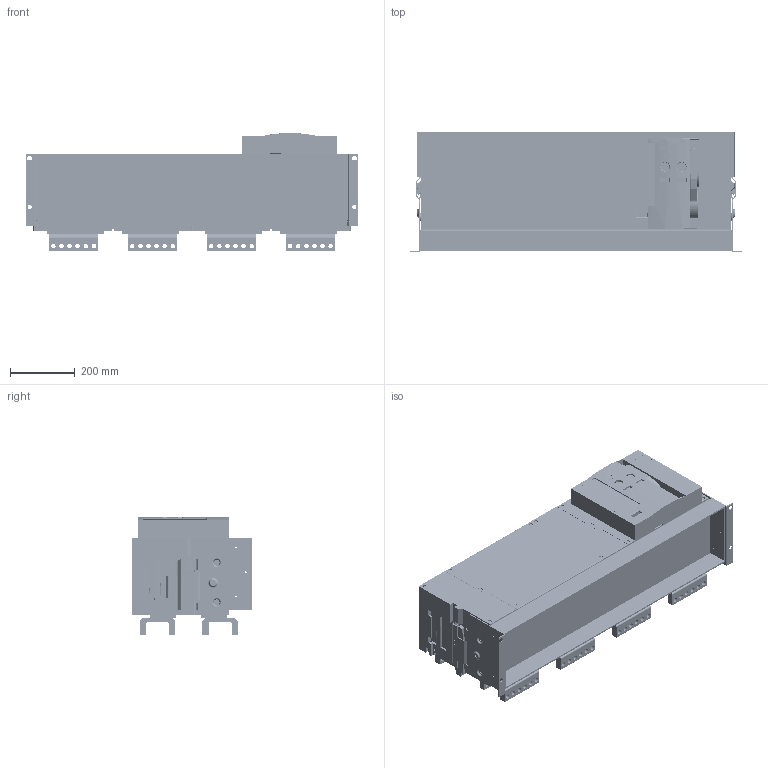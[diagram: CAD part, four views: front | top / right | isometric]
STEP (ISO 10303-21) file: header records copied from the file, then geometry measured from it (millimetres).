
FILE_DESCRIPTION (( 'STEP AP214' ), '1' );
FILE_NAME ('OptiMat A-S6-B-6300-4P-F-H.STEP', '2025-02-10T10:12:31', ( '' ), ( '' ), 'SwSTEP 2.0', 'SolidWorks 2018', '' );
FILE_SCHEMA (( 'AUTOMOTIVE_DESIGN' ));
Length unit declared in the file: millimetre
Products named in the file (1): OptiMat A-S6-B-6300-4P-F-H
Bounding box: 1022 x 372 x 362.81 mm (x, y, z)
Volume: 85283600.5 mm3; surface area: 8030613.1 mm2
Topology: 54 solids, 79 shells, 12803 faces, 34922 edges, 22891 vertices
Faces by surface type: plane 8390, cylinder 3245, cone 658, torus 286, bspline 224
Entity records: 572611 total; most frequent: CARTESIAN_POINT 107588, ORIENTED_EDGE 69534, DIRECTION 64084, EDGE_CURVE 34767, LINE 24738, VECTOR 24738, VERTEX_POINT 22891, AXIS2_PLACEMENT_3D 19673
